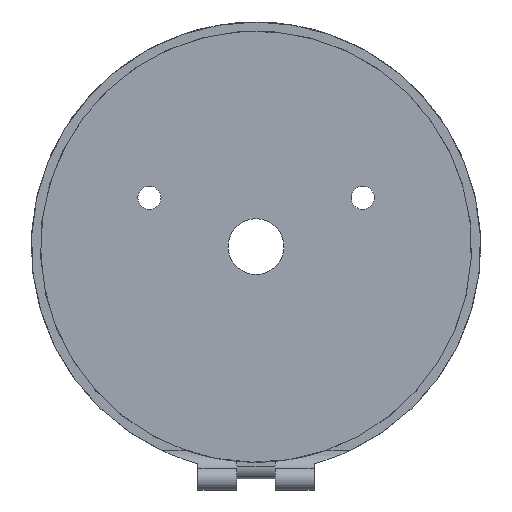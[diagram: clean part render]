
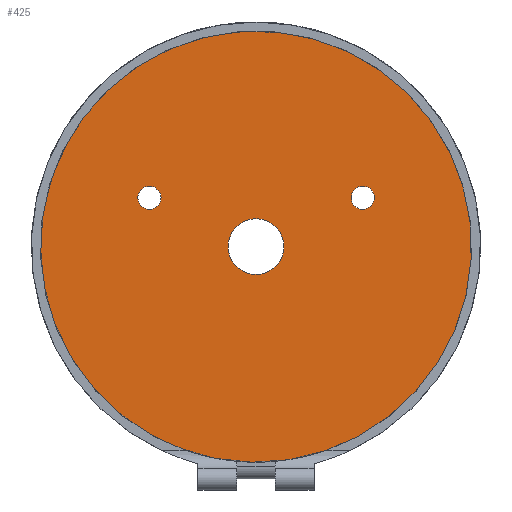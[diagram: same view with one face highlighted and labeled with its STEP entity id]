
A CAD part, front view. The second image highlights one B-rep face of the part: STEP entity #425.
In plain terms, the highlighted planar face has unit normal (0, -1, 0).
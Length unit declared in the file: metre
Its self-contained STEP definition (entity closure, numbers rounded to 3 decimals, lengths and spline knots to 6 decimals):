
#95=ORIENTED_EDGE('',*,*,#211,.T.);
#96=ORIENTED_EDGE('',*,*,#212,.F.);
#97=ORIENTED_EDGE('',*,*,#213,.F.);
#98=ORIENTED_EDGE('',*,*,#214,.T.);
#211=EDGE_CURVE('',#269,#269,#300,.T.);
#212=EDGE_CURVE('',#270,#270,#301,.T.);
#213=EDGE_CURVE('',#271,#271,#302,.T.);
#214=EDGE_CURVE('',#272,#272,#303,.T.);
#269=VERTEX_POINT('',#695);
#270=VERTEX_POINT('',#697);
#271=VERTEX_POINT('',#699);
#272=VERTEX_POINT('',#701);
#300=CIRCLE('',#470,0.004572);
#301=CIRCLE('',#471,0.001905);
#302=CIRCLE('',#472,0.001905);
#303=CIRCLE('',#473,0.035346);
#330=EDGE_LOOP('',(#95));
#331=EDGE_LOOP('',(#96));
#332=EDGE_LOOP('',(#97));
#333=EDGE_LOOP('',(#98));
#373=FACE_BOUND('',#330,.T.);
#374=FACE_BOUND('',#331,.T.);
#375=FACE_BOUND('',#332,.T.);
#376=FACE_BOUND('',#333,.T.);
#413=PLANE('',#469);
#425=ADVANCED_FACE('',(#373,#374,#375,#376),#413,.F.);
#469=AXIS2_PLACEMENT_3D('',#693,#549,#550);
#470=AXIS2_PLACEMENT_3D('',#694,#551,#552);
#471=AXIS2_PLACEMENT_3D('',#696,#553,#554);
#472=AXIS2_PLACEMENT_3D('',#698,#555,#556);
#473=AXIS2_PLACEMENT_3D('',#700,#557,#558);
#549=DIRECTION('',(0.,1.,0.));
#550=DIRECTION('',(1.,0.,0.));
#551=DIRECTION('',(0.,1.,0.));
#552=DIRECTION('',(1.,0.,0.));
#553=DIRECTION('',(0.,-1.,0.));
#554=DIRECTION('',(-1.,0.,0.));
#555=DIRECTION('',(0.,-1.,0.));
#556=DIRECTION('',(-1.,0.,0.));
#557=DIRECTION('',(0.,-1.,0.));
#558=DIRECTION('',(-1.,0.,0.));
#693=CARTESIAN_POINT('',(0.,0.,0.));
#694=CARTESIAN_POINT('',(0.,0.,0.));
#695=CARTESIAN_POINT('',(0.004572,0.,0.));
#696=CARTESIAN_POINT('',(-0.017467,0.,0.00799));
#697=CARTESIAN_POINT('',(-0.019372,0.,0.00799));
#698=CARTESIAN_POINT('',(0.017515,0.,0.008005));
#699=CARTESIAN_POINT('',(0.01561,0.,0.008005));
#700=CARTESIAN_POINT('',(0.,0.,0.));
#701=CARTESIAN_POINT('',(-0.035346,0.,0.));
